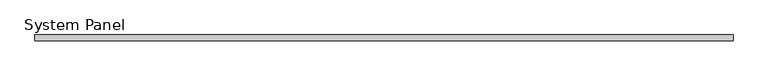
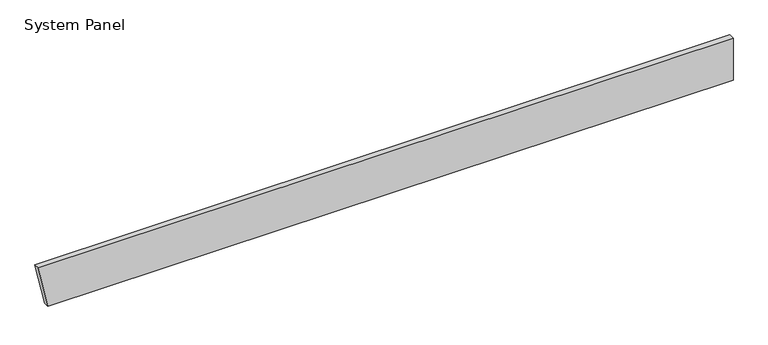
"""IFC4 building model written with IfcOpenShell, lengths in millimetres: plate geometry, System Panel : Inspire 50mm Horizontal - Plain RHEA-PIR."""

from ifc_helpers import new_model, si_unit, frame, origin, place, context, project, spatial, polyline, outline, extrude, source, transform, mapped, element, save


def system_panel_3e6877ad(model_context):
    return source(origin(), model_context, "Body", "SweptSolid", [
        extrude(outline(polyline([(0.0, -2907.3970701), (0.0, 2990.0), (379.9704237, 2990.0), (379.9704237, -2990.0), (0.0, -2907.3970701)])), frame((0.0, -50.0, 0.0), z_axis=(0.0, 1.0, 0.0), x_axis=(0.0, 0.0, 1.0)), (0.0, 0.0, 1.0), 50.0),
    ])


if __name__ == "__main__":
    model = new_model("IFC4")
    model_context = context("Model", 3, world=origin())
    ifc_project = project(units=[si_unit("LENGTHUNIT", "METRE", prefix="MILLI")], contexts=[model_context])
    site = spatial("IfcSite", under=ifc_project)
    building = spatial("IfcBuilding", under=site)
    placement = place(None, origin())
    system_panel_shape = system_panel_3e6877ad(model_context)
    element("IfcPlate", 1, ObjectType="System Panel : Inspire 50mm Horizontal - Plain RHEA-PIR", at=placement, inside=building, context=model_context, shape_type="MappedRepresentation", body=[
        mapped(system_panel_shape, transform((0.0, 0.0, 0.0), x_axis=(1.0, 0.0, 0.0), y_axis=(0.0, 1.0, 0.0), z_axis=(0.0, 0.0, 1.0))),
    ])
    save(model, "model.ifc")
